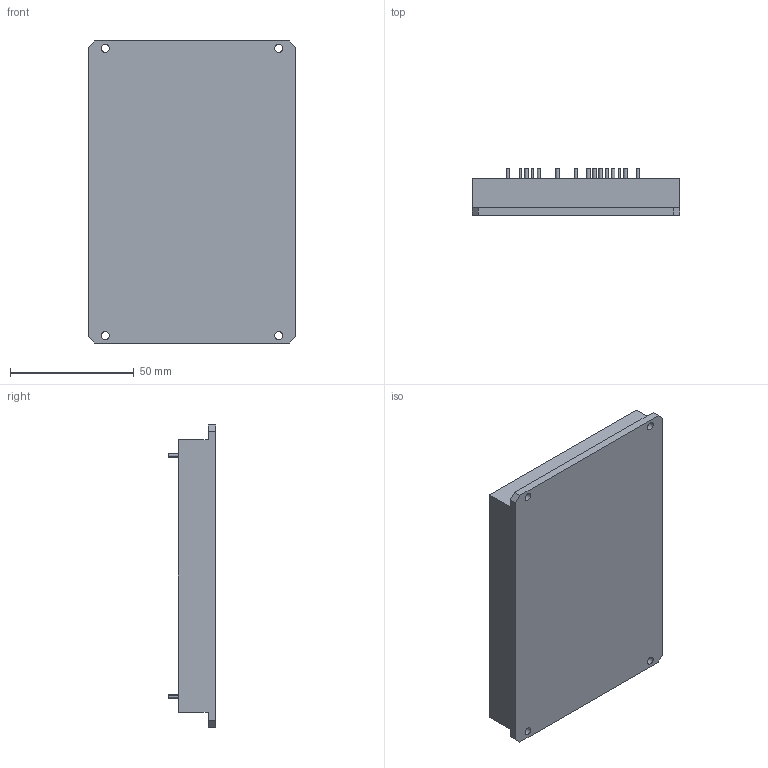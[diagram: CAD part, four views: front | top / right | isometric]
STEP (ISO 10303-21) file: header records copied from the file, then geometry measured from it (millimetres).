
FILE_DESCRIPTION(/* description */ (''),/* implementation_level */ '2;1');
FILE_NAME(/* name */ '',/* time_stamp */ '2021-06-23T20:02:09+02:00',/* author */ (''),/* organization */ (''),/* preprocessor_version */ 'ST-DEVELOPER v18.1',/* originating_system */ '',/* authorisation */ '');
FILE_SCHEMA (('AUTOMOTIVE_DESIGN { 1 0 10303 214 3 1 1 }'));
Length unit declared in the file: millimetre
Products named in the file (1): TESND1200-F7
Bounding box: 84 x 19 x 122 mm (x, y, z)
Volume: 132749.3 mm3; surface area: 27108.2 mm2
Topology: 1 solids, 1 shells, 59 faces, 120 edges, 80 vertices
Faces by surface type: plane 35, cylinder 24
Full cylindrical faces by diameter (mm): 1 x6, 1.5 x10, 3.2 x4
Entity records: 1619 total; most frequent: DIRECTION 288, CARTESIAN_POINT 260, ORIENTED_EDGE 240, EDGE_CURVE 120, AXIS2_PLACEMENT_3D 108, EDGE_LOOP 84, VERTEX_POINT 80, LINE 72
